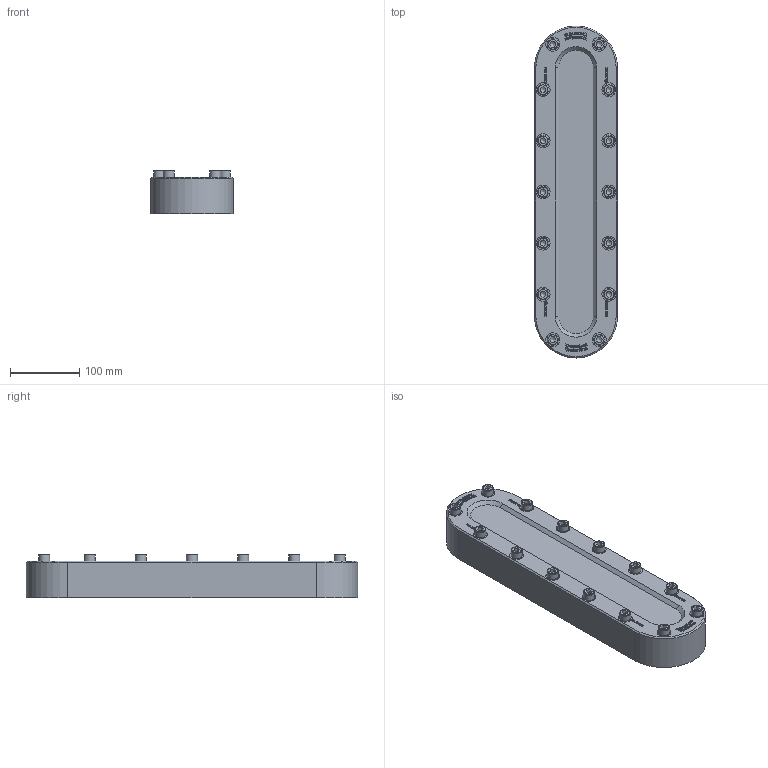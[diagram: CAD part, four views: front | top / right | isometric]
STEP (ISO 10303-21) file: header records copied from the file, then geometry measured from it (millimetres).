
FILE_DESCRIPTION(/* description */ (''),/* implementation_level */ '2;1');
FILE_NAME(/* name */ 'W:\Konstruktion_ACI\338\_STEP\338-480.stp',/* time_stamp */ '2022-03-11T14:31:40+01:00',/* author */ ('koslowksi'),/* organization */ (''),/* preprocessor_version */ 'ST-DEVELOPER v16.1',/* originating_system */ 'Autodesk Inventor 2016',/* authorisation */ '');
FILE_SCHEMA (('AUTOMOTIVE_DESIGN { 1 0 10303 214 3 1 1 }'));
Length unit declared in the file: millimetre
Products named in the file (1): 338-480
Bounding box: 120 x 480 x 62.9 mm (x, y, z)
Volume: 2379333.1 mm3; surface area: 196281.3 mm2
Topology: 1 solids, 1 shells, 1460 faces, 3947 edges, 2621 vertices
Faces by surface type: plane 958, bspline 438, cylinder 32, cone 18, torus 14
Full cylindrical faces by diameter (mm): 16 x14, 20 x12
Entity records: 48560 total; most frequent: CARTESIAN_POINT 13809, ORIENTED_EDGE 7758, DIRECTION 5049, EDGE_CURVE 3879, LINE 2835, VECTOR 2835, VERTEX_POINT 2607, EDGE_LOOP 1646
